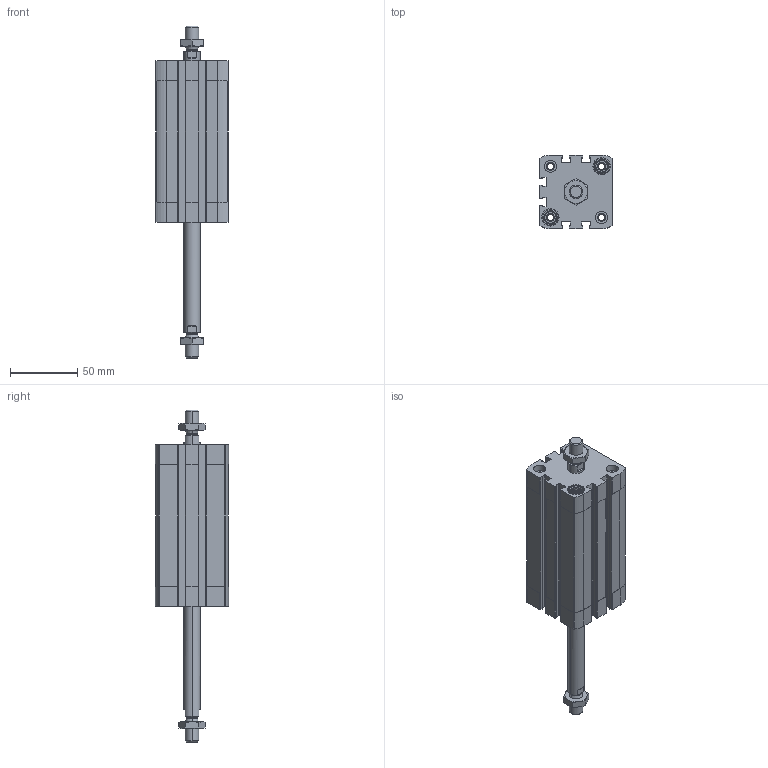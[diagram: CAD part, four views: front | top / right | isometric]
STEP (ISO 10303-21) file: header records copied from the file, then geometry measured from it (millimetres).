
FILE_DESCRIPTION (( 'STEP AP203' ), '1' );
FILE_NAME ('CCN40-75-P.STEP', '2020-06-22T18:54:02', ( '' ), ( '' ), 'SwSTEP 2.0', 'SolidWorks 2019', '' );
FILE_SCHEMA (( 'CONFIG_CONTROL_DESIGN' ));
Length unit declared in the file: millimetre
Products named in the file (1): CCN40-75-P
Bounding box: 54.5 x 54.5 x 246.6 mm (x, y, z)
Volume: 237829.5 mm3; surface area: 79094.4 mm2
Topology: 4 solids, 4 shells, 536 faces, 1416 edges, 920 vertices
Faces by surface type: plane 288, cylinder 180, cone 60, torus 8
Entity records: 17371 total; most frequent: CARTESIAN_POINT 3741, DIRECTION 2898, ORIENTED_EDGE 2832, EDGE_CURVE 1416, AXIS2_PLACEMENT_3D 1069, VERTEX_POINT 920, LINE 760, VECTOR 760
